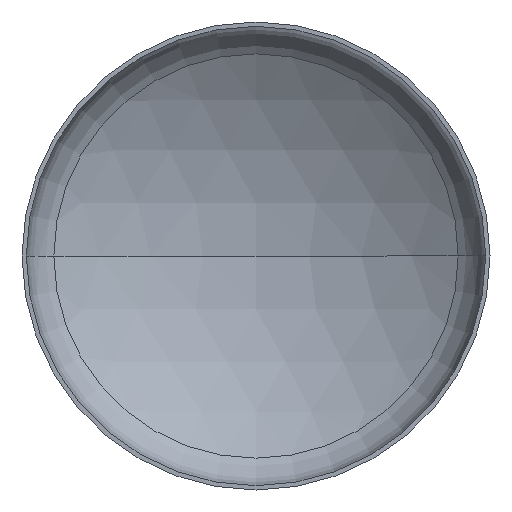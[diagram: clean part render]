
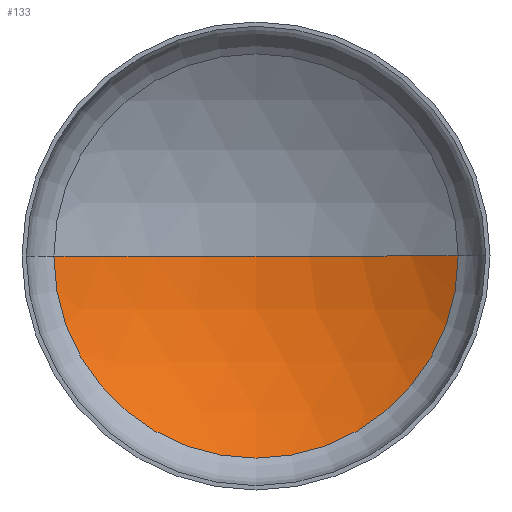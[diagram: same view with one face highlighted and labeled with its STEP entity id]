
A CAD part, front view. The second image highlights one B-rep face of the part: STEP entity #133.
In plain terms, the highlighted spherical face has radius 253.12 mm.
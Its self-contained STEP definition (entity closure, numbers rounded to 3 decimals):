
#8 = DIRECTION ( 'NONE',  ( -1., 0., 0. ) ) ;
#29 = VERTEX_POINT ( 'NONE', #323 ) ;
#37 = SPHERICAL_SURFACE ( 'NONE', #153, 253.12 ) ;
#41 = DIRECTION ( 'NONE',  ( 0., 0., 1. ) ) ;
#48 = CARTESIAN_POINT ( 'NONE',  ( 0., 96., 0. ) ) ;
#70 = AXIS2_PLACEMENT_3D ( 'NONE', #161, #254, #8 ) ;
#72 = DIRECTION ( 'NONE',  ( -1., 0., 0. ) ) ;
#85 = DIRECTION ( 'NONE',  ( -1., 0., 0. ) ) ;
#93 = VERTEX_POINT ( 'NONE', #102 ) ;
#94 = EDGE_CURVE ( 'NONE', #93, #272, #229, .T. ) ;
#102 = CARTESIAN_POINT ( 'NONE',  ( -139.902, 53.823, 0. ) ) ;
#131 = DIRECTION ( 'NONE',  ( 0., 0., 1. ) ) ;
#133 = ADVANCED_FACE ( 'NONE', ( #354 ), #37, .F. ) ;
#139 = CARTESIAN_POINT ( 'NONE',  ( 0., -157.12, 0. ) ) ;
#153 = AXIS2_PLACEMENT_3D ( 'NONE', #289, #131, #72 ) ;
#157 = CIRCLE ( 'NONE', #353, 253.12 ) ;
#161 = CARTESIAN_POINT ( 'NONE',  ( 0., -157.12, 0. ) ) ;
#176 = ORIENTED_EDGE ( 'NONE', *, *, #319, .T. ) ;
#179 = ORIENTED_EDGE ( 'NONE', *, *, #94, .F. ) ;
#190 = CIRCLE ( 'NONE', #314, 139.902 ) ;
#229 = CIRCLE ( 'NONE', #70, 253.12 ) ;
#254 = DIRECTION ( 'NONE',  ( 0., 0., -1. ) ) ;
#272 = VERTEX_POINT ( 'NONE', #48 ) ;
#289 = CARTESIAN_POINT ( 'NONE',  ( 0., -157.12, 0. ) ) ;
#305 = ORIENTED_EDGE ( 'NONE', *, *, #351, .F. ) ;
#314 = AXIS2_PLACEMENT_3D ( 'NONE', #328, #375, #85 ) ;
#319 = EDGE_CURVE ( 'NONE', #29, #272, #157, .T. ) ;
#323 = CARTESIAN_POINT ( 'NONE',  ( 139.902, 53.823, 0. ) ) ;
#328 = CARTESIAN_POINT ( 'NONE',  ( 0., 53.823, 0. ) ) ;
#344 = EDGE_LOOP ( 'NONE', ( #305, #176, #179 ) ) ;
#351 = EDGE_CURVE ( 'NONE', #29, #93, #190, .T. ) ;
#353 = AXIS2_PLACEMENT_3D ( 'NONE', #139, #41, #397 ) ;
#354 = FACE_OUTER_BOUND ( 'NONE', #344, .T. ) ;
#375 = DIRECTION ( 'NONE',  ( 0., 1., 0. ) ) ;
#397 = DIRECTION ( 'NONE',  ( 1., 0., 0. ) ) ;
